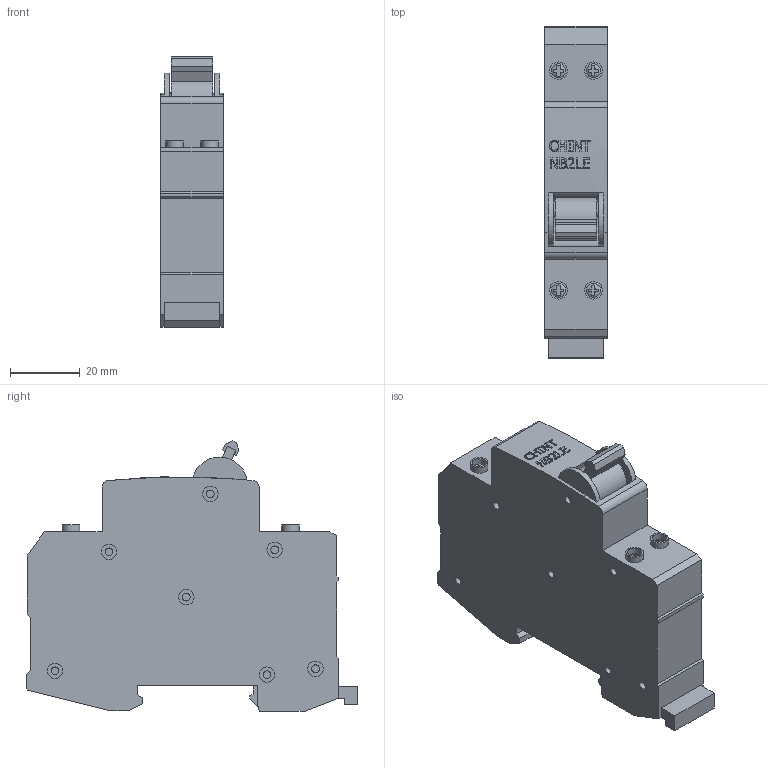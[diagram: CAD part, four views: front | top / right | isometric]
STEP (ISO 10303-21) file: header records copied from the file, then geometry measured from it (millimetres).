
FILE_DESCRIPTION(/* description */ (''),/* implementation_level */ '2;1');
FILE_NAME(/* name */ 'D:\CHINT\NB2LE\Диф. автомат NB2LE 1P+N 6A 30mA 1мод., х-ка С, электронный тип AС, 4.5kA (CHINT).stp',/* time_stamp */ '2017-09-24T19:21:14+04:00',/* author */ ('RSagdiev'),/* organization */ (''),/* preprocessor_version */ 'ST-DEVELOPER v16.5',/* originating_system */ 'Autodesk Inventor 2017',/* authorisation */ '');
FILE_SCHEMA (('AUTOMOTIVE_DESIGN { 1 0 10303 214 3 1 1 }'));
Length unit declared in the file: millimetre
Products named in the file (1): Диф. автомат NB2LE 1P+N
 6A 30mA 1мод., х-ка \X2\0421
\X0\, электронный \X2\04420438
043F\X0\ AС, 4.5kA (CHINT)
Bounding box: 18 x 95 x 77.32 mm (x, y, z)
Volume: 88593.9 mm3; surface area: 20780.6 mm2
Topology: 22 solids, 22 shells, 395 faces, 1009 edges, 745 vertices
Faces by surface type: plane 276, cylinder 74, bspline 45
Full cylindrical faces by diameter (mm): 2.211 x22, 4 x4, 4.422 x22, 5 x4
Entity records: 12676 total; most frequent: CARTESIAN_POINT 3351, DIRECTION 1824, ORIENTED_EDGE 1782, EDGE_CURVE 891, AXIS2_PLACEMENT_3D 634, VERTEX_POINT 628, LINE 556, VECTOR 556
